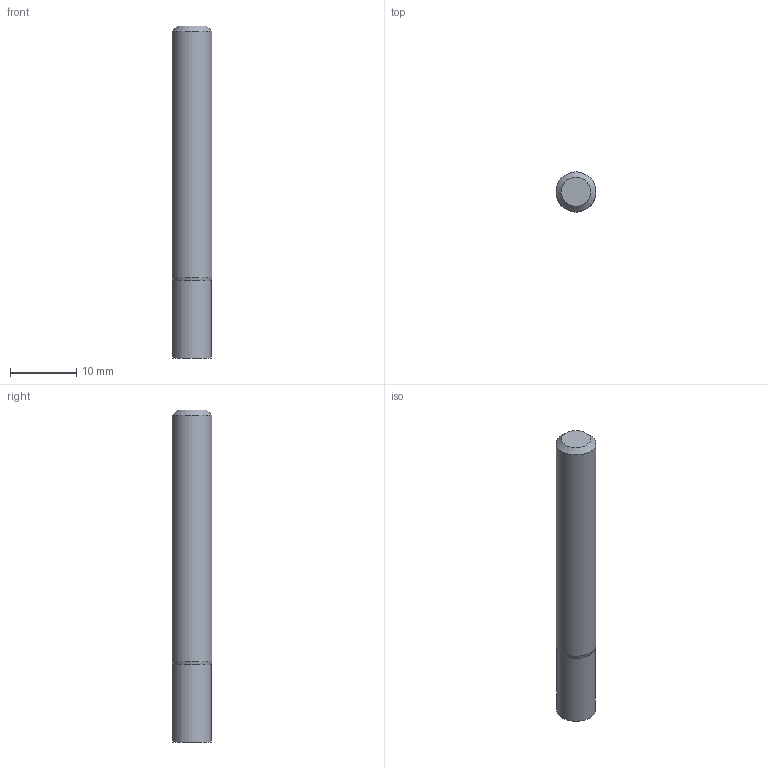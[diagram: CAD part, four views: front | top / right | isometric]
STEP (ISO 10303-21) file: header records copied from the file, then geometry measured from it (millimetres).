
FILE_DESCRIPTION((''),'2;1');
FILE_NAME('C:\Users\nsx150\AppData\Local\Temp\Mastercam 2021\E36A1X9CCL\TEMP.step','2023-04-21T15:13:17',(''),(''),'STEP Write','Mastercam 2021 ... CNC Software, Inc.','');
FILE_SCHEMA(('AUTOMOTIVE_DESIGN'));
Length unit declared in the file: millimetre
Products named in the file (1): None
Bounding box: 6 x 6 x 50 mm (x, y, z)
Volume: 1386.3 mm3; surface area: 1033.1 mm2
Topology: 2 solids, 2 shells, 8 faces, 10 edges, 6 vertices
Faces by surface type: plane 4, cylinder 2, cone 2
Full cylindrical faces by diameter (mm): 5.8 x1, 6 x1
Entity records: 190 total; most frequent: DIRECTION 32, CARTESIAN_POINT 22, AXIS2_PLACEMENT_3D 16, ORIENTED_EDGE 12, EDGE_LOOP 12, STYLED_ITEM 11, ADVANCED_FACE 8, VERTEX_POINT 6
